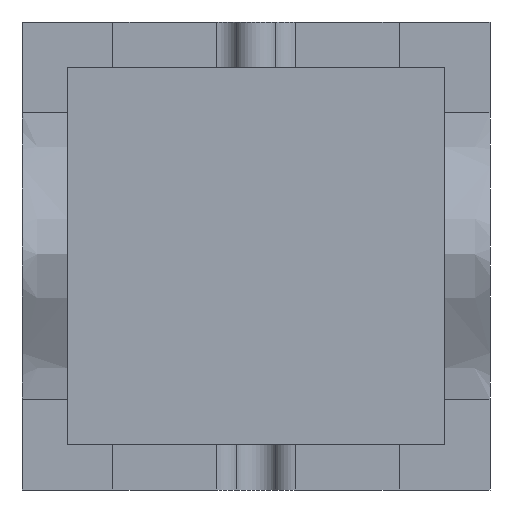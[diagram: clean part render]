
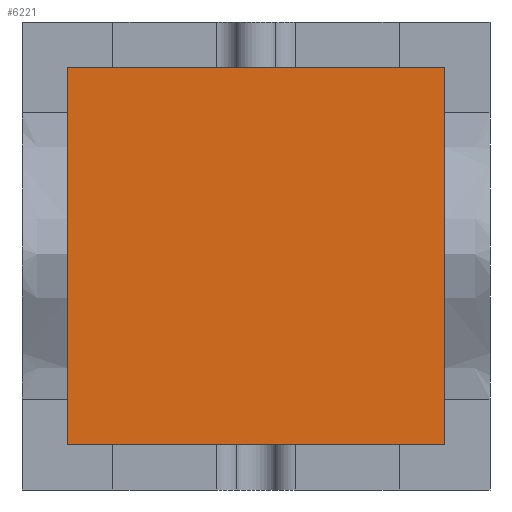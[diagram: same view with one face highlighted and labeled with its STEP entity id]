
A CAD part, front view. The second image highlights one B-rep face of the part: STEP entity #6221.
In plain terms, the highlighted planar face has unit normal (0, -1, 0).
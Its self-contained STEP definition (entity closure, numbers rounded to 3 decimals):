
#6095=CARTESIAN_POINT('Vertex',(-20.,-30.,-20.)) ;
#6100=CARTESIAN_POINT('Line Origine',(-20.,-30.,63.)) ;
#6104=CARTESIAN_POINT('Vertex',(-20.,-30.,146.)) ;
#6131=CARTESIAN_POINT('Line Origine',(63.,-30.,146.)) ;
#6135=CARTESIAN_POINT('Vertex',(146.,-30.,146.)) ;
#6162=CARTESIAN_POINT('Line Origine',(146.,-30.,63.)) ;
#6166=CARTESIAN_POINT('Vertex',(146.,-30.,-20.)) ;
#6193=CARTESIAN_POINT('Line Origine',(63.,-30.,-20.)) ;
#6210=CARTESIAN_POINT('Axis2P3D Location',(0.,-30.,0.)) ;
#6101=DIRECTION('Vector Direction',(0.,0.,-1.)) ;
#6132=DIRECTION('Vector Direction',(1.,0.,0.)) ;
#6163=DIRECTION('Vector Direction',(0.,0.,1.)) ;
#6194=DIRECTION('Vector Direction',(-1.,0.,0.)) ;
#6211=DIRECTION('Axis2P3D Direction',(0.,1.,0.)) ;
#6212=DIRECTION('Axis2P3D XDirection',(-1.,0.,0.)) ;
#6213=AXIS2_PLACEMENT_3D('Plane Axis2P3D',#6210,#6211,#6212) ;
#6216=ORIENTED_EDGE('',*,*,#6197,.F.) ;
#6217=ORIENTED_EDGE('',*,*,#6168,.F.) ;
#6218=ORIENTED_EDGE('',*,*,#6137,.F.) ;
#6219=ORIENTED_EDGE('',*,*,#6106,.F.) ;
#6102=VECTOR('Line Direction',#6101,1.) ;
#6133=VECTOR('Line Direction',#6132,1.) ;
#6164=VECTOR('Line Direction',#6163,1.) ;
#6195=VECTOR('Line Direction',#6194,1.) ;
#6221=ADVANCED_FACE('Cavity-molde',(#6220),#6214,.F.) ;
#6106=EDGE_CURVE('',#6096,#6105,#6103,.F.) ;
#6137=EDGE_CURVE('',#6105,#6136,#6134,.T.) ;
#6168=EDGE_CURVE('',#6136,#6167,#6165,.F.) ;
#6197=EDGE_CURVE('',#6167,#6096,#6196,.T.) ;
#6215=EDGE_LOOP('',(#6216,#6217,#6218,#6219)) ;
#6220=FACE_OUTER_BOUND('',#6215,.T.) ;
#6103=LINE('Line',#6100,#6102) ;
#6134=LINE('Line',#6131,#6133) ;
#6165=LINE('Line',#6162,#6164) ;
#6196=LINE('Line',#6193,#6195) ;
#6214=PLANE('',#6213) ;
#6096=VERTEX_POINT('',#6095) ;
#6105=VERTEX_POINT('',#6104) ;
#6136=VERTEX_POINT('',#6135) ;
#6167=VERTEX_POINT('',#6166) ;
